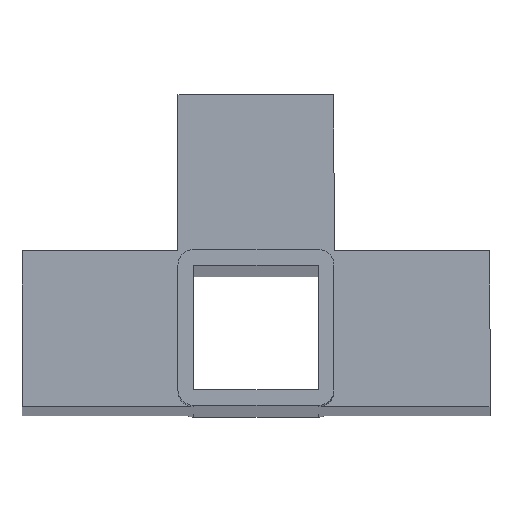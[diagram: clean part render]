
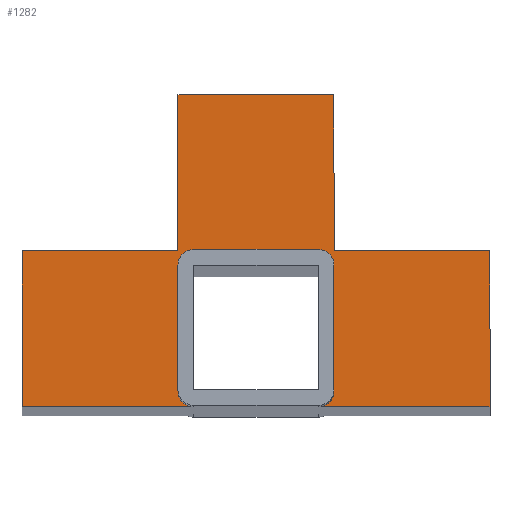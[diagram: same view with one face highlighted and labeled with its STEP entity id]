
A CAD part, top view. The second image highlights one B-rep face of the part: STEP entity #1282.
In plain terms, the highlighted planar face has unit normal (0, 0, 1).
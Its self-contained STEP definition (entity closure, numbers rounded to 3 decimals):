
#20 = AXIS2_PLACEMENT_3D ( 'NONE', #1294, #877, #672 ) ;
#45 = DIRECTION ( 'NONE',  ( 0., 1., 0. ) ) ;
#79 = EDGE_CURVE ( 'NONE', #608, #574, #749, .T. ) ;
#86 = CARTESIAN_POINT ( 'NONE',  ( 15., 15., 500. ) ) ;
#95 = VERTEX_POINT ( 'NONE', #396 ) ;
#98 = VECTOR ( 'NONE', #668, 1000. ) ;
#99 = LINE ( 'NONE', #554, #305 ) ;
#118 = DIRECTION ( 'NONE',  ( 1., 0., 0. ) ) ;
#132 = LINE ( 'NONE', #874, #1267 ) ;
#133 = CARTESIAN_POINT ( 'NONE',  ( -12., -15., 500. ) ) ;
#134 = CARTESIAN_POINT ( 'NONE',  ( -12., 15., 500. ) ) ;
#158 = VERTEX_POINT ( 'NONE', #1289 ) ;
#168 = LINE ( 'NONE', #448, #180 ) ;
#170 = EDGE_CURVE ( 'NONE', #1207, #343, #132, .T. ) ;
#180 = VECTOR ( 'NONE', #771, 1000. ) ;
#183 = EDGE_CURVE ( 'NONE', #494, #1085, #904, .T. ) ;
#193 = AXIS2_PLACEMENT_3D ( 'NONE', #390, #1125, #925 ) ;
#194 = VERTEX_POINT ( 'NONE', #1269 ) ;
#202 = LINE ( 'NONE', #895, #1268 ) ;
#213 = ORIENTED_EDGE ( 'NONE', *, *, #1314, .F. ) ;
#222 = DIRECTION ( 'NONE',  ( 1., 0., 0. ) ) ;
#231 = CARTESIAN_POINT ( 'NONE',  ( 12., -15., 500. ) ) ;
#241 = DIRECTION ( 'NONE',  ( 0., 0., 1. ) ) ;
#267 = CARTESIAN_POINT ( 'NONE',  ( 45., -15., 500. ) ) ;
#268 = LINE ( 'NONE', #641, #98 ) ;
#285 = AXIS2_PLACEMENT_3D ( 'NONE', #473, #663, #1087 ) ;
#292 = ORIENTED_EDGE ( 'NONE', *, *, #375, .F. ) ;
#305 = VECTOR ( 'NONE', #1281, 1000. ) ;
#330 = VECTOR ( 'NONE', #356, 1000. ) ;
#343 = VERTEX_POINT ( 'NONE', #712 ) ;
#356 = DIRECTION ( 'NONE',  ( 1., 0., 0. ) ) ;
#375 = EDGE_CURVE ( 'NONE', #812, #194, #1131, .T. ) ;
#377 = FACE_OUTER_BOUND ( 'NONE', #724, .T. ) ;
#390 = CARTESIAN_POINT ( 'NONE',  ( -12., 12., 500. ) ) ;
#396 = CARTESIAN_POINT ( 'NONE',  ( -15., 45., 500. ) ) ;
#417 = VECTOR ( 'NONE', #118, 1000. ) ;
#420 = ORIENTED_EDGE ( 'NONE', *, *, #512, .T. ) ;
#444 = DIRECTION ( 'NONE',  ( 0., -1., 0. ) ) ;
#445 = PLANE ( 'NONE',  #20 ) ;
#448 = CARTESIAN_POINT ( 'NONE',  ( 45., 0., 500. ) ) ;
#454 = CARTESIAN_POINT ( 'NONE',  ( -15., 0., 500. ) ) ;
#463 = VERTEX_POINT ( 'NONE', #1335 ) ;
#473 = CARTESIAN_POINT ( 'NONE',  ( 12., -12., 500. ) ) ;
#494 = VERTEX_POINT ( 'NONE', #267 ) ;
#512 = EDGE_CURVE ( 'NONE', #608, #972, #202, .T. ) ;
#517 = VERTEX_POINT ( 'NONE', #788 ) ;
#527 = VERTEX_POINT ( 'NONE', #1201 ) ;
#536 = CARTESIAN_POINT ( 'NONE',  ( 0., -15., 500. ) ) ;
#544 = ORIENTED_EDGE ( 'NONE', *, *, #1189, .F. ) ;
#552 = CARTESIAN_POINT ( 'NONE',  ( -15., 12., 500. ) ) ;
#554 = CARTESIAN_POINT ( 'NONE',  ( -45., 0., 500. ) ) ;
#555 = AXIS2_PLACEMENT_3D ( 'NONE', #638, #241, #222 ) ;
#574 = VERTEX_POINT ( 'NONE', #552 ) ;
#579 = ORIENTED_EDGE ( 'NONE', *, *, #1032, .F. ) ;
#591 = EDGE_CURVE ( 'NONE', #574, #463, #822, .T. ) ;
#608 = VERTEX_POINT ( 'NONE', #134 ) ;
#628 = VECTOR ( 'NONE', #1293, 1000. ) ;
#638 = CARTESIAN_POINT ( 'NONE',  ( -12., -12., 500. ) ) ;
#640 = ORIENTED_EDGE ( 'NONE', *, *, #183, .F. ) ;
#641 = CARTESIAN_POINT ( 'NONE',  ( 15., 0., 500. ) ) ;
#656 = VECTOR ( 'NONE', #444, 1000. ) ;
#662 = CARTESIAN_POINT ( 'NONE',  ( -15., 0., 500. ) ) ;
#663 = DIRECTION ( 'NONE',  ( 0., 0., 1. ) ) ;
#668 = DIRECTION ( 'NONE',  ( 0., -1., 0. ) ) ;
#671 = CARTESIAN_POINT ( 'NONE',  ( 12., 15., 500. ) ) ;
#672 = DIRECTION ( 'NONE',  ( 1., 0., 0. ) ) ;
#686 = VERTEX_POINT ( 'NONE', #1221 ) ;
#693 = ORIENTED_EDGE ( 'NONE', *, *, #1200, .F. ) ;
#712 = CARTESIAN_POINT ( 'NONE',  ( -45., -15., 500. ) ) ;
#724 = EDGE_LOOP ( 'NONE', ( #815, #420, #839, #1185, #579, #640, #1331, #544, #1159, #999, #1326, #292, #213, #745, #693, #1227 ) ) ;
#745 = ORIENTED_EDGE ( 'NONE', *, *, #170, .F. ) ;
#749 = CIRCLE ( 'NONE', #193, 3. ) ;
#758 = CARTESIAN_POINT ( 'NONE',  ( 0., 15., 500. ) ) ;
#771 = DIRECTION ( 'NONE',  ( 0., -1., 0. ) ) ;
#788 = CARTESIAN_POINT ( 'NONE',  ( 15., 45., 500. ) ) ;
#796 = VERTEX_POINT ( 'NONE', #86 ) ;
#812 = VERTEX_POINT ( 'NONE', #1332 ) ;
#815 = ORIENTED_EDGE ( 'NONE', *, *, #79, .F. ) ;
#820 = EDGE_CURVE ( 'NONE', #517, #796, #971, .T. ) ;
#822 = LINE ( 'NONE', #662, #656 ) ;
#823 = CARTESIAN_POINT ( 'NONE',  ( 0., 15., 500. ) ) ;
#829 = CIRCLE ( 'NONE', #1209, 3. ) ;
#830 = LINE ( 'NONE', #454, #941 ) ;
#839 = ORIENTED_EDGE ( 'NONE', *, *, #1166, .T. ) ;
#848 = CARTESIAN_POINT ( 'NONE',  ( 12., 12., 500. ) ) ;
#874 = CARTESIAN_POINT ( 'NONE',  ( 0., -15., 500. ) ) ;
#877 = DIRECTION ( 'NONE',  ( 0., 0., 1. ) ) ;
#884 = DIRECTION ( 'NONE',  ( 1., 0., 0. ) ) ;
#886 = CIRCLE ( 'NONE', #555, 3. ) ;
#889 = CARTESIAN_POINT ( 'NONE',  ( 15., 0., 500. ) ) ;
#895 = CARTESIAN_POINT ( 'NONE',  ( 0., 15., 500. ) ) ;
#904 = LINE ( 'NONE', #536, #1082 ) ;
#913 = EDGE_CURVE ( 'NONE', #95, #517, #1219, .T. ) ;
#921 = DIRECTION ( 'NONE',  ( 1., 0., 0. ) ) ;
#925 = DIRECTION ( 'NONE',  ( 1., 0., 0. ) ) ;
#941 = VECTOR ( 'NONE', #45, 1000. ) ;
#970 = DIRECTION ( 'NONE',  ( 1., 0., 0. ) ) ;
#971 = LINE ( 'NONE', #889, #628 ) ;
#972 = VERTEX_POINT ( 'NONE', #671 ) ;
#978 = CARTESIAN_POINT ( 'NONE',  ( 0., 45., 500. ) ) ;
#995 = CIRCLE ( 'NONE', #285, 3. ) ;
#999 = ORIENTED_EDGE ( 'NONE', *, *, #913, .F. ) ;
#1032 = EDGE_CURVE ( 'NONE', #1085, #686, #995, .T. ) ;
#1058 = DIRECTION ( 'NONE',  ( 0., 0., -1. ) ) ;
#1062 = VECTOR ( 'NONE', #921, 1000. ) ;
#1076 = LINE ( 'NONE', #758, #417 ) ;
#1082 = VECTOR ( 'NONE', #1264, 1000. ) ;
#1085 = VERTEX_POINT ( 'NONE', #231 ) ;
#1087 = DIRECTION ( 'NONE',  ( 1., 0., 0. ) ) ;
#1125 = DIRECTION ( 'NONE',  ( 0., 0., 1. ) ) ;
#1131 = LINE ( 'NONE', #823, #1062 ) ;
#1141 = EDGE_CURVE ( 'NONE', #158, #686, #268, .T. ) ;
#1159 = ORIENTED_EDGE ( 'NONE', *, *, #820, .F. ) ;
#1166 = EDGE_CURVE ( 'NONE', #972, #158, #829, .T. ) ;
#1185 = ORIENTED_EDGE ( 'NONE', *, *, #1141, .T. ) ;
#1189 = EDGE_CURVE ( 'NONE', #796, #527, #1076, .T. ) ;
#1191 = DIRECTION ( 'NONE',  ( -1., 0., 0. ) ) ;
#1200 = EDGE_CURVE ( 'NONE', #463, #1207, #886, .T. ) ;
#1201 = CARTESIAN_POINT ( 'NONE',  ( 45., 15., 500. ) ) ;
#1207 = VERTEX_POINT ( 'NONE', #133 ) ;
#1209 = AXIS2_PLACEMENT_3D ( 'NONE', #848, #1058, #970 ) ;
#1219 = LINE ( 'NONE', #978, #330 ) ;
#1221 = CARTESIAN_POINT ( 'NONE',  ( 15., -12., 500. ) ) ;
#1227 = ORIENTED_EDGE ( 'NONE', *, *, #591, .F. ) ;
#1247 = EDGE_CURVE ( 'NONE', #527, #494, #168, .T. ) ;
#1264 = DIRECTION ( 'NONE',  ( -1., 0., 0. ) ) ;
#1267 = VECTOR ( 'NONE', #1191, 1000. ) ;
#1268 = VECTOR ( 'NONE', #884, 1000. ) ;
#1269 = CARTESIAN_POINT ( 'NONE',  ( -15., 15., 500. ) ) ;
#1281 = DIRECTION ( 'NONE',  ( 0., 1., 0. ) ) ;
#1282 = ADVANCED_FACE ( 'NONE', ( #377 ), #445, .T. ) ;
#1289 = CARTESIAN_POINT ( 'NONE',  ( 15., 12., 500. ) ) ;
#1293 = DIRECTION ( 'NONE',  ( 0., -1., 0. ) ) ;
#1294 = CARTESIAN_POINT ( 'NONE',  ( 0., 0., 500. ) ) ;
#1314 = EDGE_CURVE ( 'NONE', #343, #812, #99, .T. ) ;
#1326 = ORIENTED_EDGE ( 'NONE', *, *, #1329, .F. ) ;
#1329 = EDGE_CURVE ( 'NONE', #194, #95, #830, .T. ) ;
#1331 = ORIENTED_EDGE ( 'NONE', *, *, #1247, .F. ) ;
#1332 = CARTESIAN_POINT ( 'NONE',  ( -45., 15., 500. ) ) ;
#1335 = CARTESIAN_POINT ( 'NONE',  ( -15., -12., 500. ) ) ;
